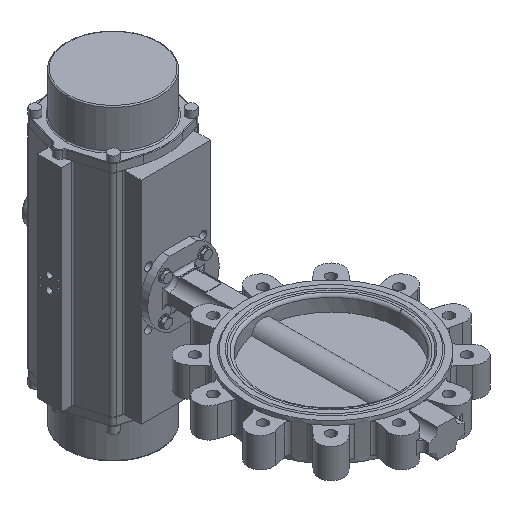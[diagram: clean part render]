
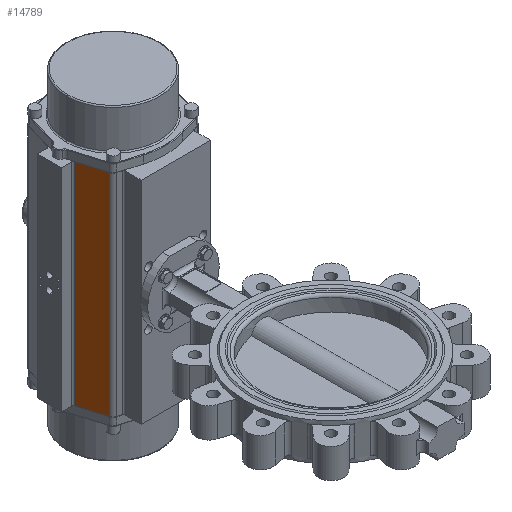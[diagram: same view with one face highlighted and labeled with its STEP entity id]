
A CAD part, isometric view. The second image highlights one B-rep face of the part: STEP entity #14789.
In plain terms, the highlighted planar face has unit normal (-0.957, -0.29, 0) as drawn and (0, -0.29, 0.957) by its records, which use the part's own axes.
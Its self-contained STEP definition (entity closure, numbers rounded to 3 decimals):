
#1020 = CARTESIAN_POINT ( 'NONE',  ( 192.3, -73.301, 79.886 ) ) ;
#1624 = EDGE_CURVE ( 'NONE', #19676, #17883, #14527, .T. ) ;
#1630 = FACE_OUTER_BOUND ( 'NONE', #17183, .T. ) ;
#1736 = PLANE ( 'NONE',  #9774 ) ;
#2984 = CARTESIAN_POINT ( 'NONE',  ( 192.3, -24.129, 94.806 ) ) ;
#3170 = DIRECTION ( 'NONE',  ( 0., 0.29, -0.957 ) ) ;
#3468 = CARTESIAN_POINT ( 'NONE',  ( -192.3, -73.301, 79.886 ) ) ;
#3991 = DIRECTION ( 'NONE',  ( 0., -0.957, -0.29 ) ) ;
#4379 = VECTOR ( 'NONE', #3991, 1000. ) ;
#5212 = DIRECTION ( 'NONE',  ( 0., -0.957, -0.29 ) ) ;
#5352 = LINE ( 'NONE', #12536, #6366 ) ;
#6225 = LINE ( 'NONE', #16750, #4379 ) ;
#6366 = VECTOR ( 'NONE', #10653, 1000. ) ;
#7108 = CARTESIAN_POINT ( 'NONE',  ( 192.3, -22., 95.452 ) ) ;
#7663 = LINE ( 'NONE', #19205, #9349 ) ;
#8839 = CARTESIAN_POINT ( 'NONE',  ( 192.3, -22., 95.452 ) ) ;
#9349 = VECTOR ( 'NONE', #20435, 1000. ) ;
#9774 = AXIS2_PLACEMENT_3D ( 'NONE', #8839, #3170, #12137 ) ;
#10653 = DIRECTION ( 'NONE',  ( -1., 0., 0. ) ) ;
#10685 = EDGE_CURVE ( 'NONE', #18605, #16121, #6225, .T. ) ;
#11813 = ORIENTED_EDGE ( 'NONE', *, *, #13211, .F. ) ;
#11948 = ORIENTED_EDGE ( 'NONE', *, *, #21587, .T. ) ;
#12137 = DIRECTION ( 'NONE',  ( 0., 0.957, 0.29 ) ) ;
#12428 = VECTOR ( 'NONE', #5212, 1000. ) ;
#12536 = CARTESIAN_POINT ( 'NONE',  ( 192.3, -73.301, 79.886 ) ) ;
#13211 = EDGE_CURVE ( 'NONE', #17883, #16121, #5352, .T. ) ;
#14527 = LINE ( 'NONE', #7108, #12428 ) ;
#14789 = ADVANCED_FACE ( 'NONE', ( #1630 ), #1736, .F. ) ;
#15225 = ORIENTED_EDGE ( 'NONE', *, *, #10685, .T. ) ;
#16121 = VERTEX_POINT ( 'NONE', #3468 ) ;
#16750 = CARTESIAN_POINT ( 'NONE',  ( -192.3, -22., 95.452 ) ) ;
#16811 = CARTESIAN_POINT ( 'NONE',  ( -192.3, -24.129, 94.806 ) ) ;
#17183 = EDGE_LOOP ( 'NONE', ( #18106, #11948, #15225, #11813 ) ) ;
#17883 = VERTEX_POINT ( 'NONE', #1020 ) ;
#18106 = ORIENTED_EDGE ( 'NONE', *, *, #1624, .F. ) ;
#18605 = VERTEX_POINT ( 'NONE', #16811 ) ;
#19205 = CARTESIAN_POINT ( 'NONE',  ( -192.3, -24.129, 94.806 ) ) ;
#19676 = VERTEX_POINT ( 'NONE', #2984 ) ;
#20435 = DIRECTION ( 'NONE',  ( -1., 0., 0. ) ) ;
#21587 = EDGE_CURVE ( 'NONE', #19676, #18605, #7663, .T. ) ;
